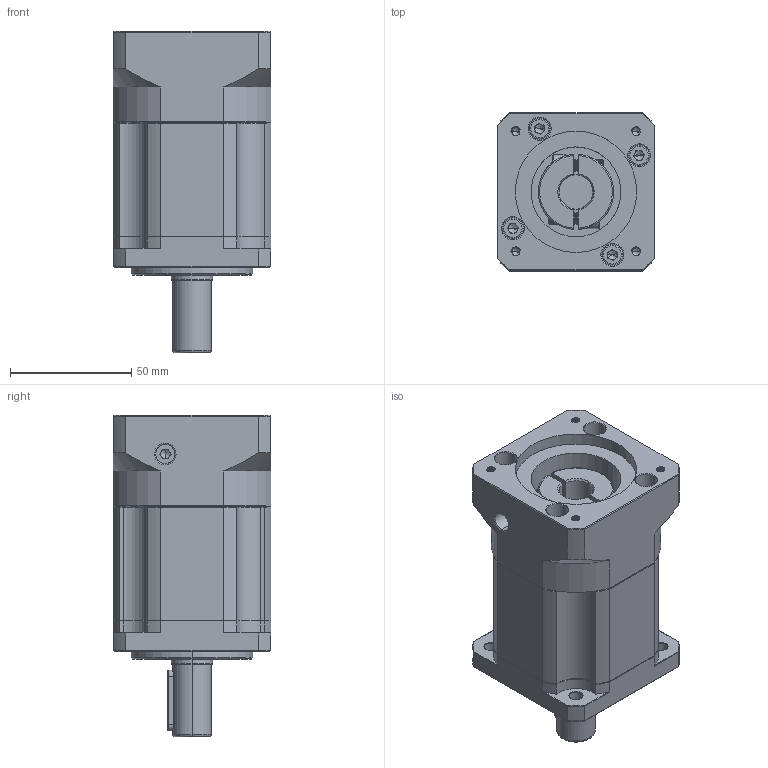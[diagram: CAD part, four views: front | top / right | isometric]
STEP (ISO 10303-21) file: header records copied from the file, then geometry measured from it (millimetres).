
FILE_DESCRIPTION (( 'STEP AP214' ), '1' );
FILE_NAME ('ZB60-D16-L2-14-50-70-M4.STEP', '2022-04-17T06:34:46', ( '' ), ( 'Microsoft' ), 'SwSTEP 2.0', 'SolidWorks 2016', '' );
FILE_SCHEMA (( 'AUTOMOTIVE_DESIGN' ));
Length unit declared in the file: millimetre
Products named in the file (1): ZB60-D16-L2-14-50-70-M4
Bounding box: 65 x 65 x 132.5 mm (x, y, z)
Volume: 330650.7 mm3; surface area: 58631.7 mm2
Topology: 6 solids, 6 shells, 1874 faces, 4977 edges, 3186 vertices
Faces by surface type: plane 879, cylinder 381, bspline 299, cone 281, torus 34
Entity records: 98851 total; most frequent: CARTESIAN_POINT 34088, ORIENTED_EDGE 9894, DIRECTION 8097, EDGE_CURVE 4947, VERTEX_POINT 3186, LINE 3011, VECTOR 3011, AXIS2_PLACEMENT_3D 2543
